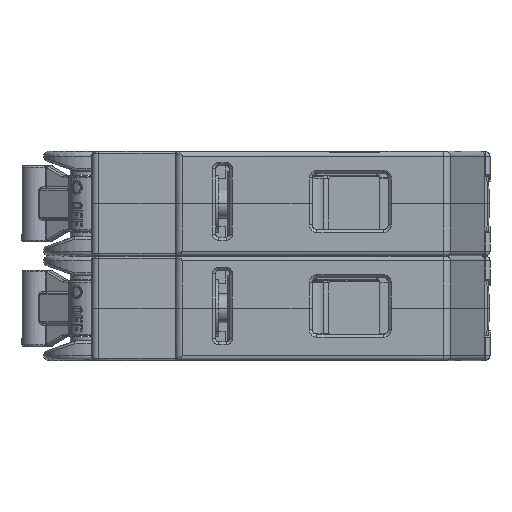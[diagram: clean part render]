
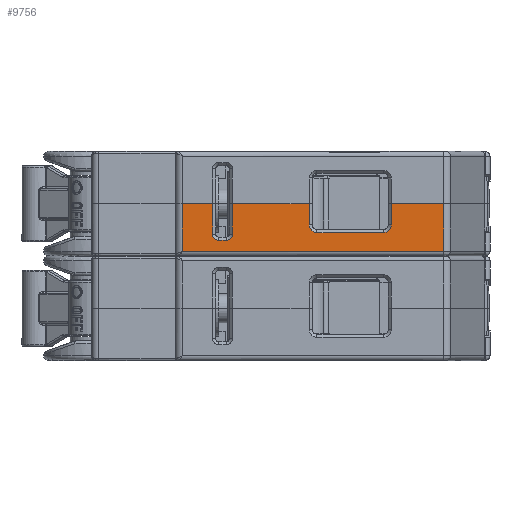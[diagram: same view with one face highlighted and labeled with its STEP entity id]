
A CAD part, left-side view. The second image highlights one B-rep face of the part: STEP entity #9756.
In plain terms, the highlighted planar face has unit normal (-1, 0, 0).
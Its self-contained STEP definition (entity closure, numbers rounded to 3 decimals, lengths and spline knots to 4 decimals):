
#103=DIRECTION('',(0.,1.,0.));
#104=VECTOR('',#103,0.199);
#105=CARTESIAN_POINT('',(-1.73,-0.056,0.));
#106=LINE('',#105,#104);
#351=DIRECTION('',(0.,1.,0.));
#352=VECTOR('',#351,0.505);
#353=CARTESIAN_POINT('',(-1.73,-0.691,0.));
#354=LINE('',#353,#352);
#505=DIRECTION('',(0.,1.,0.));
#506=VECTOR('',#505,0.3436);
#507=CARTESIAN_POINT('',(-1.73,-1.5746,0.));
#508=LINE('',#507,#506);
#687=DIRECTION('',(0.,0.,1.));
#688=VECTOR('',#687,0.139);
#689=CARTESIAN_POINT('',(-1.73,-0.691,
-0.139));
#690=LINE('',#689,#688);
#691=CARTESIAN_POINT('',(-1.73,-0.742,-0.139));
#692=DIRECTION('',(1.,0.,0.));
#693=DIRECTION('',(0.,0.,-1.));
#694=AXIS2_PLACEMENT_3D('',#691,#692,#693);
#696=DIRECTION('',(0.,1.,0.));
#697=VECTOR('',#696,0.438);
#698=CARTESIAN_POINT('',(-1.73,-1.18,
-0.19));
#699=LINE('',#698,#697);
#700=CARTESIAN_POINT('',(-1.73,-1.18,-0.139));
#701=DIRECTION('',(1.,0.,0.));
#702=DIRECTION('',(0.,-1.,0.));
#703=AXIS2_PLACEMENT_3D('',#700,#701,#702);
#705=DIRECTION('',(0.,0.,-1.));
#706=VECTOR('',#705,0.139);
#707=CARTESIAN_POINT('',(-1.73,-1.231,0.));
#708=LINE('',#707,#706);
#709=DIRECTION('',(0.,0.,1.));
#710=VECTOR('',#709,0.313);
#711=CARTESIAN_POINT('',(-1.73,-1.5746,-0.313));
#712=LINE('',#711,#710);
#713=DIRECTION('',(0.,1.,0.));
#714=VECTOR('',#713,1.7176);
#715=CARTESIAN_POINT('',(-1.73,-1.5746,-0.313));
#716=LINE('',#715,#714);
#717=DIRECTION('',(0.,0.,-1.));
#718=VECTOR('',#717,0.313);
#719=CARTESIAN_POINT('',(-1.73,0.143,0.));
#720=LINE('',#719,#718);
#721=DIRECTION('',(0.,0.,1.));
#722=VECTOR('',#721,0.2);
#723=CARTESIAN_POINT('',(-1.73,-0.056,
-0.2));
#724=LINE('',#723,#722);
#725=CARTESIAN_POINT('',(-1.73,-0.096,-0.2));
#726=DIRECTION('',(1.,0.,0.));
#727=DIRECTION('',(0.,0.,-1.));
#728=AXIS2_PLACEMENT_3D('',#725,#726,#727);
#730=DIRECTION('',(0.,1.,0.));
#731=VECTOR('',#730,0.05);
#732=CARTESIAN_POINT('',(-1.73,-0.146,
-0.24));
#733=LINE('',#732,#731);
#734=CARTESIAN_POINT('',(-1.73,-0.146,-0.2));
#735=DIRECTION('',(1.,0.,0.));
#736=DIRECTION('',(0.,-1.,0.));
#737=AXIS2_PLACEMENT_3D('',#734,#735,#736);
#739=DIRECTION('',(0.,0.,-1.));
#740=VECTOR('',#739,0.2);
#741=CARTESIAN_POINT('',(-1.73,-0.186,0.));
#742=LINE('',#741,#740);
#7451=CARTESIAN_POINT('',(-1.73,0.143,0.));
#7453=VERTEX_POINT('',#7451);
#7454=CARTESIAN_POINT('',(-1.73,0.143,-0.313));
#7455=VERTEX_POINT('',#7454);
#7460=CARTESIAN_POINT('',(-1.73,-1.5746,-0.313));
#7461=VERTEX_POINT('',#7460);
#7520=CARTESIAN_POINT('',(-1.73,-1.5746,0.));
#7522=VERTEX_POINT('',#7520);
#7532=CARTESIAN_POINT('',(-1.73,-0.056,
-0.2));
#7533=CARTESIAN_POINT('',(-1.73,-0.056,0.));
#7534=VERTEX_POINT('',#7532);
#7535=VERTEX_POINT('',#7533);
#7536=CARTESIAN_POINT('',(-1.73,-0.096,-0.24));
#7537=VERTEX_POINT('',#7536);
#7538=CARTESIAN_POINT('',(-1.73,-0.146,
-0.24));
#7539=VERTEX_POINT('',#7538);
#7540=CARTESIAN_POINT('',(-1.73,-0.186,-0.2));
#7541=VERTEX_POINT('',#7540);
#7543=CARTESIAN_POINT('',(-1.73,-0.186,0.));
#7545=VERTEX_POINT('',#7543);
#7571=CARTESIAN_POINT('',(-1.73,-0.691,
-0.139));
#7572=CARTESIAN_POINT('',(-1.73,-0.691,0.));
#7573=VERTEX_POINT('',#7571);
#7574=VERTEX_POINT('',#7572);
#7575=CARTESIAN_POINT('',(-1.73,-0.742,-0.19));
#7576=VERTEX_POINT('',#7575);
#7577=CARTESIAN_POINT('',(-1.73,-1.18,
-0.19));
#7578=VERTEX_POINT('',#7577);
#7583=CARTESIAN_POINT('',(-1.73,-1.231,-0.139));
#7584=VERTEX_POINT('',#7583);
#7585=CARTESIAN_POINT('',(-1.73,-1.231,0.));
#7586=VERTEX_POINT('',#7585);
#9720=CARTESIAN_POINT('',(-1.73,0.19,0.));
#9721=DIRECTION('',(-1.,0.,0.));
#9722=DIRECTION('',(0.,-1.,0.));
#9723=AXIS2_PLACEMENT_3D('',#9720,#9721,#9722);
#9724=PLANE('',#9723);
#9726=ORIENTED_EDGE('',*,*,#9725,.F.);
#9728=ORIENTED_EDGE('',*,*,#9727,.F.);
#9730=ORIENTED_EDGE('',*,*,#9729,.F.);
#9732=ORIENTED_EDGE('',*,*,#9731,.F.);
#9734=ORIENTED_EDGE('',*,*,#9733,.F.);
#9735=ORIENTED_EDGE('',*,*,#9517,.F.);
#9737=ORIENTED_EDGE('',*,*,#9736,.F.);
#9739=ORIENTED_EDGE('',*,*,#9738,.T.);
#9741=ORIENTED_EDGE('',*,*,#9740,.F.);
#9742=ORIENTED_EDGE('',*,*,#9289,.F.);
#9744=ORIENTED_EDGE('',*,*,#9743,.F.);
#9746=ORIENTED_EDGE('',*,*,#9745,.F.);
#9748=ORIENTED_EDGE('',*,*,#9747,.F.);
#9750=ORIENTED_EDGE('',*,*,#9749,.F.);
#9752=ORIENTED_EDGE('',*,*,#9751,.F.);
#9753=ORIENTED_EDGE('',*,*,#9427,.F.);
#9754=EDGE_LOOP('',(#9726,#9728,#9730,#9732,#9734,#9735,#9737,#9739,#9741,#9742,
#9744,#9746,#9748,#9750,#9752,#9753));
#9755=FACE_OUTER_BOUND('',#9754,.F.);
#9756=ADVANCED_FACE('',(#9755),#9724,.T.);
#695=CIRCLE('',#694,0.051);
#704=CIRCLE('',#703,0.051);
#729=CIRCLE('',#728,0.04);
#738=CIRCLE('',#737,0.04);
#9289=EDGE_CURVE('',#7535,#7453,#106,.T.);
#9427=EDGE_CURVE('',#7574,#7545,#354,.T.);
#9517=EDGE_CURVE('',#7522,#7586,#508,.T.);
#9725=EDGE_CURVE('',#7573,#7574,#690,.T.);
#9727=EDGE_CURVE('',#7576,#7573,#695,.T.);
#9729=EDGE_CURVE('',#7578,#7576,#699,.T.);
#9731=EDGE_CURVE('',#7584,#7578,#704,.T.);
#9733=EDGE_CURVE('',#7586,#7584,#708,.T.);
#9736=EDGE_CURVE('',#7461,#7522,#712,.T.);
#9738=EDGE_CURVE('',#7461,#7455,#716,.T.);
#9740=EDGE_CURVE('',#7453,#7455,#720,.T.);
#9743=EDGE_CURVE('',#7534,#7535,#724,.T.);
#9745=EDGE_CURVE('',#7537,#7534,#729,.T.);
#9747=EDGE_CURVE('',#7539,#7537,#733,.T.);
#9749=EDGE_CURVE('',#7541,#7539,#738,.T.);
#9751=EDGE_CURVE('',#7545,#7541,#742,.T.);
